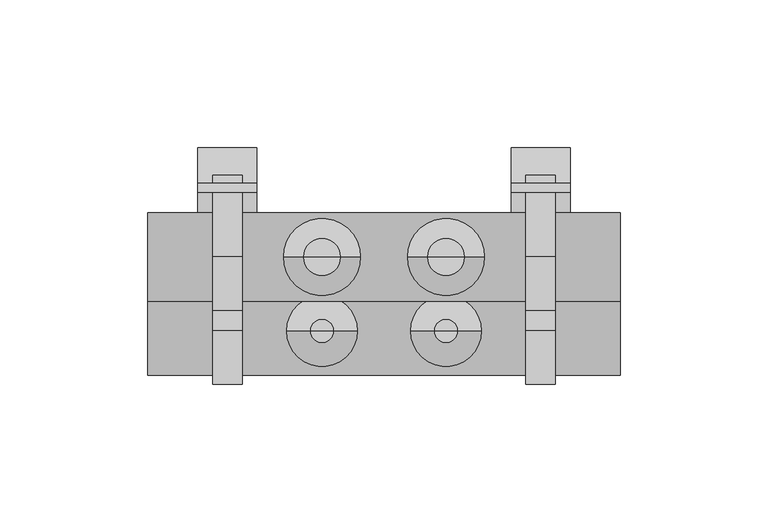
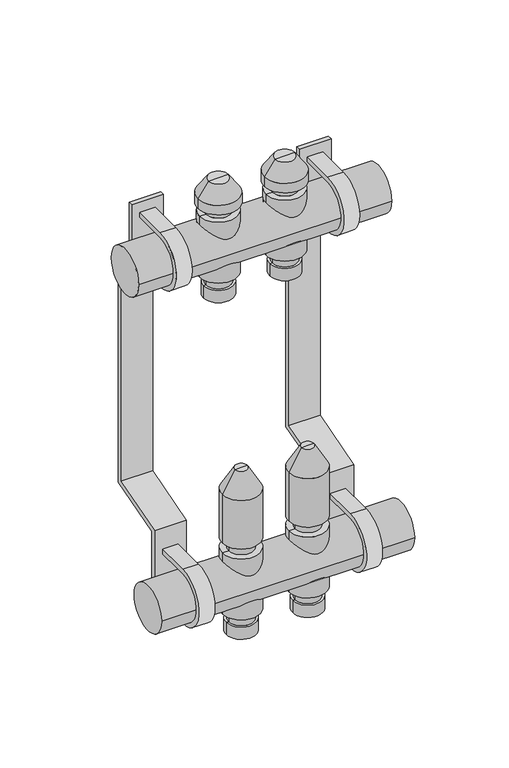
"""IFC4 building model written with IfcOpenShell, lengths in millimetres: valve geometry, PL AT_Manifold_FT-EV : 02 circuits."""

from ifc_helpers import new_model, si_unit, point, frame, frame_2d, origin, origin_2d, place, context, project, spatial, polyline, circle_curve, trimmed, segment, composite_curve, outline, extrude, source, transform, mapped, element, save
from ifc_brep_helpers import plane_surface, cylinder_surface, revolved_surface, advanced_brep


def valve_7f0c1a37(model_context):
    return source(origin(), model_context, "Body", "SolidModel", [
        advanced_brep(
        [(74.5, 0.0, -35.11267), (93.5, 0.0, -35.11267), (84.0, 0.0, -35.11267), (74.5, 0.0, -27.0369646), (93.5, 0.0, -27.0369646), (76.0, 0.0, -27.0369646), (92.0, 0.0, -27.0369646), (76.0, 0.0, -20.330253), (92.0, 0.0, -20.330253), (72.0, 0.0, -20.330253), (96.0, 0.0, -20.330253), (72.0, 0.0, 20.330253), (96.0, 0.0, 20.330253), (76.0, 0.0, 20.330253), (92.0, 0.0, 20.330253), (76.0, 0.0, 27.0474786), (92.0, 0.0, 27.0474786), (72.0, 0.0, 27.0474786), (96.0, 0.0, 27.0474786), (72.0, 0.0, 59.4084325), (96.0, 0.0, 59.4084325), (80.0, 0.0, 73.264839), (88.0, 0.0, 73.264839), (84.0, 0.0, 73.264839)],
        [
            (0, 1, circle_curve(frame((84.0, 0.0, -35.11267), z_axis=(0.0, 0.0, -1.0), x_axis=(1.0, 0.0, 0.0)), 9.5)),
            (1, 2),
            (2, 0),
            (1, 0, circle_curve(frame((84.0, 0.0, -35.11267), z_axis=(0.0, 0.0, -1.0), x_axis=(1.0, 0.0, 0.0)), 9.5)),
            (3, 4, circle_curve(frame((84.0, 0.0, -27.0369646), z_axis=(0.0, 0.0, -1.0), x_axis=(1.0, 0.0, 0.0)), 9.5)),
            (4, 1),
            (0, 3),
            (4, 3, circle_curve(frame((84.0, 0.0, -27.0369646), z_axis=(0.0, 0.0, -1.0), x_axis=(1.0, 0.0, 0.0)), 9.5)),
            (5, 6, circle_curve(frame((84.0, 0.0, -27.0369646), z_axis=(0.0, 0.0, -1.0), x_axis=(1.0, 0.0, 0.0)), 8.0)),
            (6, 4),
            (3, 5),
            (6, 5, circle_curve(frame((84.0, 0.0, -27.0369646), z_axis=(0.0, 0.0, -1.0), x_axis=(1.0, 0.0, 0.0)), 8.0)),
            (7, 8, circle_curve(frame((84.0, 0.0, -20.330253), z_axis=(0.0, 0.0, -1.0), x_axis=(1.0, 0.0, 0.0)), 8.0)),
            (8, 6),
            (5, 7),
            (8, 7, circle_curve(frame((84.0, 0.0, -20.330253), z_axis=(0.0, 0.0, -1.0), x_axis=(1.0, 0.0, 0.0)), 8.0)),
            (9, 10, circle_curve(frame((84.0, 0.0, -20.330253), z_axis=(0.0, 0.0, -1.0), x_axis=(1.0, 0.0, 0.0)), 12.0)),
            (10, 8),
            (7, 9),
            (10, 9, circle_curve(frame((84.0, 0.0, -20.330253), z_axis=(0.0, 0.0, -1.0), x_axis=(1.0, 0.0, 0.0)), 12.0)),
            (11, 12, circle_curve(frame((84.0, 0.0, 20.330253), z_axis=(0.0, 0.0, -1.0), x_axis=(1.0, 0.0, 0.0)), 12.0)),
            (12, 10),
            (9, 11),
            (12, 11, circle_curve(frame((84.0, 0.0, 20.330253), z_axis=(0.0, 0.0, -1.0), x_axis=(1.0, 0.0, 0.0)), 12.0)),
            (13, 14, circle_curve(frame((84.0, 0.0, 20.330253), z_axis=(0.0, 0.0, -1.0), x_axis=(1.0, 0.0, 0.0)), 8.0)),
            (14, 12),
            (11, 13),
            (14, 13, circle_curve(frame((84.0, 0.0, 20.330253), z_axis=(0.0, 0.0, -1.0), x_axis=(1.0, 0.0, 0.0)), 8.0)),
            (15, 16, circle_curve(frame((84.0, 0.0, 27.0474786), z_axis=(0.0, 0.0, -1.0), x_axis=(1.0, 0.0, 0.0)), 8.0)),
            (16, 14),
            (13, 15),
            (16, 15, circle_curve(frame((84.0, 0.0, 27.0474786), z_axis=(0.0, 0.0, -1.0), x_axis=(1.0, 0.0, 0.0)), 8.0)),
            (17, 18, circle_curve(frame((84.0, 0.0, 27.0474786), z_axis=(0.0, 0.0, -1.0), x_axis=(1.0, 0.0, 0.0)), 12.0)),
            (18, 16),
            (15, 17),
            (18, 17, circle_curve(frame((84.0, 0.0, 27.0474786), z_axis=(0.0, 0.0, -1.0), x_axis=(1.0, 0.0, 0.0)), 12.0)),
            (19, 20, circle_curve(frame((84.0, 0.0, 59.4084325), z_axis=(0.0, 0.0, -1.0), x_axis=(1.0, 0.0, 0.0)), 12.0)),
            (20, 18),
            (17, 19),
            (20, 19, circle_curve(frame((84.0, 0.0, 59.4084325), z_axis=(0.0, 0.0, -1.0), x_axis=(1.0, 0.0, 0.0)), 12.0)),
            (21, 22, circle_curve(frame((84.0, 0.0, 73.264839), z_axis=(0.0, 0.0, -1.0), x_axis=(1.0, 0.0, 0.0)), 4.0)),
            (22, 20),
            (19, 21),
            (22, 21, circle_curve(frame((84.0, 0.0, 73.264839), z_axis=(0.0, 0.0, -1.0), x_axis=(1.0, 0.0, 0.0)), 4.0)),
            (23, 22),
            (21, 23),
        ],
        [
            plane_surface(frame((84.0, 0.0, -35.11267), z_axis=(0.0, 0.0, -1.0), x_axis=(1.0, 0.0, 0.0))),
            cylinder_surface(frame((84.0, 0.0, 58.264839), z_axis=(0.0, 0.0, 1.0), x_axis=(1.0, 0.0, 0.0)), 9.5),
            plane_surface(frame((84.0, 0.0, -27.0369646), z_axis=(0.0, 0.0, 1.0), x_axis=(1.0, 0.0, 0.0))),
            cylinder_surface(frame((84.0, 0.0, 58.264839), z_axis=(0.0, 0.0, 1.0), x_axis=(1.0, 0.0, 0.0)), 8.0),
            plane_surface(frame((84.0, 0.0, -20.330253), z_axis=(0.0, 0.0, -1.0), x_axis=(1.0, 0.0, 0.0))),
            cylinder_surface(frame((84.0, 0.0, 58.264839), z_axis=(0.0, 0.0, 1.0), x_axis=(1.0, 0.0, 0.0)), 12.0),
            plane_surface(frame((84.0, 0.0, 20.330253), z_axis=(0.0, 0.0, 1.0), x_axis=(1.0, 0.0, 0.0))),
            plane_surface(frame((84.0, 0.0, 27.0474786), z_axis=(0.0, 0.0, -1.0), x_axis=(1.0, 0.0, 0.0))),
            revolved_surface(polyline([(96.0, 0.0, 59.4084325), (88.0, 0.0, 73.264839)]), (84.0, 0.0, 58.264839), (0.0, 0.0, 1.0)),
            plane_surface(frame((84.0, 0.0, 73.264839), z_axis=(0.0, 0.0, 1.0), x_axis=(1.0, 0.0, 0.0))),
        ],
        [
            (0, [[1, 2, 3]]),
            (0, [[4, -3, -2]]),
            (1, [[5, 6, -1, 7]]),
            (1, [[8, -7, -4, -6]]),
            (2, [[9, 10, -5, 11]]),
            (2, [[12, -11, -8, -10]]),
            (3, [[13, 14, -9, 15]]),
            (3, [[16, -15, -12, -14]]),
            (4, [[17, 18, -13, 19]]),
            (4, [[20, -19, -16, -18]]),
            (5, [[21, 22, -17, 23]]),
            (5, [[24, -23, -20, -22]]),
            (6, [[25, 26, -21, 27]]),
            (6, [[28, -27, -24, -26]]),
            (3, [[29, 30, -25, 31]]),
            (3, [[32, -31, -28, -30]]),
            (7, [[33, 34, -29, 35]]),
            (7, [[36, -35, -32, -34]]),
            (5, [[37, 38, -33, 39]]),
            (5, [[40, -39, -36, -38]]),
            (8, [[41, 42, -37, 43]]),
            (8, [[44, -43, -40, -42]]),
            (9, [[45, -41, 46]]),
            (9, [[-46, -44, -45]]),
        ],
    ),
        advanced_brep(
        [(74.5, 25.0, 174.88733), (93.5, 25.0, 174.88733), (84.0, 25.0, 174.88733), (74.5, 25.0, 182.9630354), (93.5, 25.0, 182.9630354), (76.0, 25.0, 182.9630354), (92.0, 25.0, 182.9630354), (76.0, 25.0, 189.669747), (92.0, 25.0, 189.669747), (72.0, 25.0, 189.669747), (96.0, 25.0, 189.669747), (72.0, 25.0, 230.330253), (96.0, 25.0, 230.330253), (76.0, 25.0, 230.330253), (92.0, 25.0, 230.330253), (76.0, 25.0, 236.0474786), (92.0, 25.0, 236.0474786), (71.0, 25.0, 236.0474786), (97.0, 25.0, 236.0474786), (71.0, 25.0, 242.337955), (97.0, 25.0, 242.337955), (77.6551779, 25.0, 251.842534), (90.3448221, 25.0, 251.842534), (84.0, 25.0, 251.842534)],
        [
            (0, 1, circle_curve(frame((84.0, 25.0, 174.88733), z_axis=(0.0, 0.0, -1.0), x_axis=(1.0, 0.0, 0.0)), 9.5)),
            (1, 2),
            (2, 0),
            (1, 0, circle_curve(frame((84.0, 25.0, 174.88733), z_axis=(0.0, 0.0, -1.0), x_axis=(1.0, 0.0, 0.0)), 9.5)),
            (3, 4, circle_curve(frame((84.0, 25.0, 182.9630354), z_axis=(0.0, 0.0, -1.0), x_axis=(1.0, 0.0, 0.0)), 9.5)),
            (4, 1),
            (0, 3),
            (4, 3, circle_curve(frame((84.0, 25.0, 182.9630354), z_axis=(0.0, 0.0, -1.0), x_axis=(1.0, 0.0, 0.0)), 9.5)),
            (5, 6, circle_curve(frame((84.0, 25.0, 182.9630354), z_axis=(0.0, 0.0, -1.0), x_axis=(1.0, 0.0, 0.0)), 8.0)),
            (6, 4),
            (3, 5),
            (6, 5, circle_curve(frame((84.0, 25.0, 182.9630354), z_axis=(0.0, 0.0, -1.0), x_axis=(1.0, 0.0, 0.0)), 8.0)),
            (7, 8, circle_curve(frame((84.0, 25.0, 189.669747), z_axis=(0.0, 0.0, -1.0), x_axis=(1.0, 0.0, 0.0)), 8.0)),
            (8, 6),
            (5, 7),
            (8, 7, circle_curve(frame((84.0, 25.0, 189.669747), z_axis=(0.0, 0.0, -1.0), x_axis=(1.0, 0.0, 0.0)), 8.0)),
            (9, 10, circle_curve(frame((84.0, 25.0, 189.669747), z_axis=(0.0, 0.0, -1.0), x_axis=(1.0, 0.0, 0.0)), 12.0)),
            (10, 8),
            (7, 9),
            (10, 9, circle_curve(frame((84.0, 25.0, 189.669747), z_axis=(0.0, 0.0, -1.0), x_axis=(1.0, 0.0, 0.0)), 12.0)),
            (11, 12, circle_curve(frame((84.0, 25.0, 230.330253), z_axis=(0.0, 0.0, -1.0), x_axis=(1.0, 0.0, 0.0)), 12.0)),
            (12, 10),
            (9, 11),
            (12, 11, circle_curve(frame((84.0, 25.0, 230.330253), z_axis=(0.0, 0.0, -1.0), x_axis=(1.0, 0.0, 0.0)), 12.0)),
            (13, 14, circle_curve(frame((84.0, 25.0, 230.330253), z_axis=(0.0, 0.0, -1.0), x_axis=(1.0, 0.0, 0.0)), 8.0)),
            (14, 12),
            (11, 13),
            (14, 13, circle_curve(frame((84.0, 25.0, 230.330253), z_axis=(0.0, 0.0, -1.0), x_axis=(1.0, 0.0, 0.0)), 8.0)),
            (15, 16, circle_curve(frame((84.0, 25.0, 236.0474786), z_axis=(0.0, 0.0, -1.0), x_axis=(1.0, 0.0, 0.0)), 8.0)),
            (16, 14),
            (13, 15),
            (16, 15, circle_curve(frame((84.0, 25.0, 236.0474786), z_axis=(0.0, 0.0, -1.0), x_axis=(1.0, 0.0, 0.0)), 8.0)),
            (17, 18, circle_curve(frame((84.0, 25.0, 236.0474786), z_axis=(0.0, 0.0, -1.0), x_axis=(1.0, 0.0, 0.0)), 13.0)),
            (18, 16),
            (15, 17),
            (18, 17, circle_curve(frame((84.0, 25.0, 236.0474786), z_axis=(0.0, 0.0, -1.0), x_axis=(1.0, 0.0, 0.0)), 13.0)),
            (19, 20, circle_curve(frame((84.0, 25.0, 242.337955), z_axis=(0.0, 0.0, -1.0), x_axis=(1.0, 0.0, 0.0)), 13.0)),
            (20, 18),
            (17, 19),
            (20, 19, circle_curve(frame((84.0, 25.0, 242.337955), z_axis=(0.0, 0.0, -1.0), x_axis=(1.0, 0.0, 0.0)), 13.0)),
            (21, 22, circle_curve(frame((84.0, 25.0, 251.842534), z_axis=(0.0, 0.0, -1.0), x_axis=(1.0, 0.0, 0.0)), 6.3448221)),
            (22, 20),
            (19, 21),
            (22, 21, circle_curve(frame((84.0, 25.0, 251.842534), z_axis=(0.0, 0.0, -1.0), x_axis=(1.0, 0.0, 0.0)), 6.3448221)),
            (23, 22),
            (21, 23),
        ],
        [
            plane_surface(frame((84.0, 25.0, 174.88733), z_axis=(0.0, 0.0, -1.0), x_axis=(1.0, 0.0, 0.0))),
            cylinder_surface(frame((84.0, 25.0, 247.7026565), z_axis=(0.0, 0.0, 1.0), x_axis=(1.0, 0.0, 0.0)), 9.5),
            plane_surface(frame((84.0, 25.0, 182.9630354), z_axis=(0.0, 0.0, 1.0), x_axis=(1.0, 0.0, 0.0))),
            cylinder_surface(frame((84.0, 25.0, 247.7026565), z_axis=(0.0, 0.0, 1.0), x_axis=(1.0, 0.0, 0.0)), 8.0),
            plane_surface(frame((84.0, 25.0, 189.669747), z_axis=(0.0, 0.0, -1.0), x_axis=(1.0, 0.0, 0.0))),
            cylinder_surface(frame((84.0, 25.0, 247.7026565), z_axis=(0.0, 0.0, 1.0), x_axis=(1.0, 0.0, 0.0)), 12.0),
            plane_surface(frame((84.0, 25.0, 230.330253), z_axis=(0.0, 0.0, 1.0), x_axis=(1.0, 0.0, 0.0))),
            plane_surface(frame((84.0, 25.0, 236.0474786), z_axis=(0.0, 0.0, -1.0), x_axis=(1.0, 0.0, 0.0))),
            cylinder_surface(frame((84.0, 25.0, 247.7026565), z_axis=(0.0, 0.0, 1.0), x_axis=(1.0, 0.0, 0.0)), 13.0),
            revolved_surface(polyline([(97.0, 25.0, 242.337955), (90.3448221, 25.0, 251.842534)]), (84.0, 25.0, 247.7026565), (0.0, 0.0, 1.0)),
            plane_surface(frame((84.0, 25.0, 251.842534), z_axis=(0.0, 0.0, 1.0), x_axis=(1.0, 0.0, 0.0))),
        ],
        [
            (0, [[1, 2, 3]]),
            (0, [[4, -3, -2]]),
            (1, [[5, 6, -1, 7]]),
            (1, [[8, -7, -4, -6]]),
            (2, [[9, 10, -5, 11]]),
            (2, [[12, -11, -8, -10]]),
            (3, [[13, 14, -9, 15]]),
            (3, [[16, -15, -12, -14]]),
            (4, [[17, 18, -13, 19]]),
            (4, [[20, -19, -16, -18]]),
            (5, [[21, 22, -17, 23]]),
            (5, [[24, -23, -20, -22]]),
            (6, [[25, 26, -21, 27]]),
            (6, [[28, -27, -24, -26]]),
            (3, [[29, 30, -25, 31]]),
            (3, [[32, -31, -28, -30]]),
            (7, [[33, 34, -29, 35]]),
            (7, [[36, -35, -32, -34]]),
            (8, [[37, 38, -33, 39]]),
            (8, [[40, -39, -36, -38]]),
            (9, [[41, 42, -37, 43]]),
            (9, [[44, -43, -40, -42]]),
            (10, [[45, -41, 46]]),
            (10, [[-46, -44, -45]]),
        ],
    ),
        advanced_brep(
        [(32.5, 25.0, 174.88733), (51.5, 25.0, 174.88733), (42.0, 25.0, 174.88733), (32.5, 25.0, 182.9630354), (51.5, 25.0, 182.9630354), (34.0, 25.0, 182.9630354), (50.0, 25.0, 182.9630354), (34.0, 25.0, 189.669747), (50.0, 25.0, 189.669747), (30.0, 25.0, 189.669747), (54.0, 25.0, 189.669747), (30.0, 25.0, 230.330253), (54.0, 25.0, 230.330253), (34.0, 25.0, 230.330253), (50.0, 25.0, 230.330253), (34.0, 25.0, 236.0474786), (50.0, 25.0, 236.0474786), (29.0, 25.0, 236.0474786), (55.0, 25.0, 236.0474786), (29.0, 25.0, 242.337955), (55.0, 25.0, 242.337955), (35.6551779, 25.0, 251.842534), (48.3448221, 25.0, 251.842534), (42.0, 25.0, 251.842534)],
        [
            (0, 1, circle_curve(frame((42.0, 25.0, 174.88733), z_axis=(0.0, 0.0, -1.0), x_axis=(1.0, 0.0, 0.0)), 9.5)),
            (1, 2),
            (2, 0),
            (1, 0, circle_curve(frame((42.0, 25.0, 174.88733), z_axis=(0.0, 0.0, -1.0), x_axis=(1.0, 0.0, 0.0)), 9.5)),
            (3, 4, circle_curve(frame((42.0, 25.0, 182.9630354), z_axis=(0.0, 0.0, -1.0), x_axis=(1.0, 0.0, 0.0)), 9.5)),
            (4, 1),
            (0, 3),
            (4, 3, circle_curve(frame((42.0, 25.0, 182.9630354), z_axis=(0.0, 0.0, -1.0), x_axis=(1.0, 0.0, 0.0)), 9.5)),
            (5, 6, circle_curve(frame((42.0, 25.0, 182.9630354), z_axis=(0.0, 0.0, -1.0), x_axis=(1.0, 0.0, 0.0)), 8.0)),
            (6, 4),
            (3, 5),
            (6, 5, circle_curve(frame((42.0, 25.0, 182.9630354), z_axis=(0.0, 0.0, -1.0), x_axis=(1.0, 0.0, 0.0)), 8.0)),
            (7, 8, circle_curve(frame((42.0, 25.0, 189.669747), z_axis=(0.0, 0.0, -1.0), x_axis=(1.0, 0.0, 0.0)), 8.0)),
            (8, 6),
            (5, 7),
            (8, 7, circle_curve(frame((42.0, 25.0, 189.669747), z_axis=(0.0, 0.0, -1.0), x_axis=(1.0, 0.0, 0.0)), 8.0)),
            (9, 10, circle_curve(frame((42.0, 25.0, 189.669747), z_axis=(0.0, 0.0, -1.0), x_axis=(1.0, 0.0, 0.0)), 12.0)),
            (10, 8),
            (7, 9),
            (10, 9, circle_curve(frame((42.0, 25.0, 189.669747), z_axis=(0.0, 0.0, -1.0), x_axis=(1.0, 0.0, 0.0)), 12.0)),
            (11, 12, circle_curve(frame((42.0, 25.0, 230.330253), z_axis=(0.0, 0.0, -1.0), x_axis=(1.0, 0.0, 0.0)), 12.0)),
            (12, 10),
            (9, 11),
            (12, 11, circle_curve(frame((42.0, 25.0, 230.330253), z_axis=(0.0, 0.0, -1.0), x_axis=(1.0, 0.0, 0.0)), 12.0)),
            (13, 14, circle_curve(frame((42.0, 25.0, 230.330253), z_axis=(0.0, 0.0, -1.0), x_axis=(1.0, 0.0, 0.0)), 8.0)),
            (14, 12),
            (11, 13),
            (14, 13, circle_curve(frame((42.0, 25.0, 230.330253), z_axis=(0.0, 0.0, -1.0), x_axis=(1.0, 0.0, 0.0)), 8.0)),
            (15, 16, circle_curve(frame((42.0, 25.0, 236.0474786), z_axis=(0.0, 0.0, -1.0), x_axis=(1.0, 0.0, 0.0)), 8.0)),
            (16, 14),
            (13, 15),
            (16, 15, circle_curve(frame((42.0, 25.0, 236.0474786), z_axis=(0.0, 0.0, -1.0), x_axis=(1.0, 0.0, 0.0)), 8.0)),
            (17, 18, circle_curve(frame((42.0, 25.0, 236.0474786), z_axis=(0.0, 0.0, -1.0), x_axis=(1.0, 0.0, 0.0)), 13.0)),
            (18, 16),
            (15, 17),
            (18, 17, circle_curve(frame((42.0, 25.0, 236.0474786), z_axis=(0.0, 0.0, -1.0), x_axis=(1.0, 0.0, 0.0)), 13.0)),
            (19, 20, circle_curve(frame((42.0, 25.0, 242.337955), z_axis=(0.0, 0.0, -1.0), x_axis=(1.0, 0.0, 0.0)), 13.0)),
            (20, 18),
            (17, 19),
            (20, 19, circle_curve(frame((42.0, 25.0, 242.337955), z_axis=(0.0, 0.0, -1.0), x_axis=(1.0, 0.0, 0.0)), 13.0)),
            (21, 22, circle_curve(frame((42.0, 25.0, 251.842534), z_axis=(0.0, 0.0, -1.0), x_axis=(1.0, 0.0, 0.0)), 6.3448221)),
            (22, 20),
            (19, 21),
            (22, 21, circle_curve(frame((42.0, 25.0, 251.842534), z_axis=(0.0, 0.0, -1.0), x_axis=(1.0, 0.0, 0.0)), 6.3448221)),
            (23, 22),
            (21, 23),
        ],
        [
            plane_surface(frame((42.0, 25.0, 174.88733), z_axis=(0.0, 0.0, -1.0), x_axis=(1.0, 0.0, 0.0))),
            cylinder_surface(frame((42.0, 25.0, 247.7026565), z_axis=(0.0, 0.0, 1.0), x_axis=(1.0, 0.0, 0.0)), 9.5),
            plane_surface(frame((42.0, 25.0, 182.9630354), z_axis=(0.0, 0.0, 1.0), x_axis=(1.0, 0.0, 0.0))),
            cylinder_surface(frame((42.0, 25.0, 247.7026565), z_axis=(0.0, 0.0, 1.0), x_axis=(1.0, 0.0, 0.0)), 8.0),
            plane_surface(frame((42.0, 25.0, 189.669747), z_axis=(0.0, 0.0, -1.0), x_axis=(1.0, 0.0, 0.0))),
            cylinder_surface(frame((42.0, 25.0, 247.7026565), z_axis=(0.0, 0.0, 1.0), x_axis=(1.0, 0.0, 0.0)), 12.0),
            plane_surface(frame((42.0, 25.0, 230.330253), z_axis=(0.0, 0.0, 1.0), x_axis=(1.0, 0.0, 0.0))),
            plane_surface(frame((42.0, 25.0, 236.0474786), z_axis=(0.0, 0.0, -1.0), x_axis=(1.0, 0.0, 0.0))),
            cylinder_surface(frame((42.0, 25.0, 247.7026565), z_axis=(0.0, 0.0, 1.0), x_axis=(1.0, 0.0, 0.0)), 13.0),
            revolved_surface(polyline([(55.0, 25.0, 242.337955), (48.3448221, 25.0, 251.842534)]), (42.0, 25.0, 247.7026565), (0.0, 0.0, 1.0)),
            plane_surface(frame((42.0, 25.0, 251.842534), z_axis=(0.0, 0.0, 1.0), x_axis=(1.0, 0.0, 0.0))),
        ],
        [
            (0, [[1, 2, 3]]),
            (0, [[4, -3, -2]]),
            (1, [[5, 6, -1, 7]]),
            (1, [[8, -7, -4, -6]]),
            (2, [[9, 10, -5, 11]]),
            (2, [[12, -11, -8, -10]]),
            (3, [[13, 14, -9, 15]]),
            (3, [[16, -15, -12, -14]]),
            (4, [[17, 18, -13, 19]]),
            (4, [[20, -19, -16, -18]]),
            (5, [[21, 22, -17, 23]]),
            (5, [[24, -23, -20, -22]]),
            (6, [[25, 26, -21, 27]]),
            (6, [[28, -27, -24, -26]]),
            (3, [[29, 30, -25, 31]]),
            (3, [[32, -31, -28, -30]]),
            (7, [[33, 34, -29, 35]]),
            (7, [[36, -35, -32, -34]]),
            (8, [[37, 38, -33, 39]]),
            (8, [[40, -39, -36, -38]]),
            (9, [[41, 42, -37, 43]]),
            (9, [[44, -43, -40, -42]]),
            (10, [[45, -41, 46]]),
            (10, [[-46, -44, -45]]),
        ],
    ),
        advanced_brep(
        [(32.5, 0.0, -35.11267), (51.5, 0.0, -35.11267), (42.0, 0.0, -35.11267), (32.5, 0.0, -27.0369646), (51.5, 0.0, -27.0369646), (34.0, 0.0, -27.0369646), (50.0, 0.0, -27.0369646), (34.0, 0.0, -20.330253), (50.0, 0.0, -20.330253), (30.0, 0.0, -20.330253), (54.0, 0.0, -20.330253), (30.0, 0.0, 20.330253), (54.0, 0.0, 20.330253), (34.0, 0.0, 20.330253), (50.0, 0.0, 20.330253), (34.0, 0.0, 27.0474786), (50.0, 0.0, 27.0474786), (30.0, 0.0, 27.0474786), (54.0, 0.0, 27.0474786), (30.0, 0.0, 59.4084325), (54.0, 0.0, 59.4084325), (38.0, 0.0, 73.264839), (46.0, 0.0, 73.264839), (42.0, 0.0, 73.264839)],
        [
            (0, 1, circle_curve(frame((42.0, 0.0, -35.11267), z_axis=(0.0, 0.0, -1.0), x_axis=(1.0, 0.0, 0.0)), 9.5)),
            (1, 2),
            (2, 0),
            (1, 0, circle_curve(frame((42.0, 0.0, -35.11267), z_axis=(0.0, 0.0, -1.0), x_axis=(1.0, 0.0, 0.0)), 9.5)),
            (3, 4, circle_curve(frame((42.0, 0.0, -27.0369646), z_axis=(0.0, 0.0, -1.0), x_axis=(1.0, 0.0, 0.0)), 9.5)),
            (4, 1),
            (0, 3),
            (4, 3, circle_curve(frame((42.0, 0.0, -27.0369646), z_axis=(0.0, 0.0, -1.0), x_axis=(1.0, 0.0, 0.0)), 9.5)),
            (5, 6, circle_curve(frame((42.0, 0.0, -27.0369646), z_axis=(0.0, 0.0, -1.0), x_axis=(1.0, 0.0, 0.0)), 8.0)),
            (6, 4),
            (3, 5),
            (6, 5, circle_curve(frame((42.0, 0.0, -27.0369646), z_axis=(0.0, 0.0, -1.0), x_axis=(1.0, 0.0, 0.0)), 8.0)),
            (7, 8, circle_curve(frame((42.0, 0.0, -20.330253), z_axis=(0.0, 0.0, -1.0), x_axis=(1.0, 0.0, 0.0)), 8.0)),
            (8, 6),
            (5, 7),
            (8, 7, circle_curve(frame((42.0, 0.0, -20.330253), z_axis=(0.0, 0.0, -1.0), x_axis=(1.0, 0.0, 0.0)), 8.0)),
            (9, 10, circle_curve(frame((42.0, 0.0, -20.330253), z_axis=(0.0, 0.0, -1.0), x_axis=(1.0, 0.0, 0.0)), 12.0)),
            (10, 8),
            (7, 9),
            (10, 9, circle_curve(frame((42.0, 0.0, -20.330253), z_axis=(0.0, 0.0, -1.0), x_axis=(1.0, 0.0, 0.0)), 12.0)),
            (11, 12, circle_curve(frame((42.0, 0.0, 20.330253), z_axis=(0.0, 0.0, -1.0), x_axis=(1.0, 0.0, 0.0)), 12.0)),
            (12, 10),
            (9, 11),
            (12, 11, circle_curve(frame((42.0, 0.0, 20.330253), z_axis=(0.0, 0.0, -1.0), x_axis=(1.0, 0.0, 0.0)), 12.0)),
            (13, 14, circle_curve(frame((42.0, 0.0, 20.330253), z_axis=(0.0, 0.0, -1.0), x_axis=(1.0, 0.0, 0.0)), 8.0)),
            (14, 12),
            (11, 13),
            (14, 13, circle_curve(frame((42.0, 0.0, 20.330253), z_axis=(0.0, 0.0, -1.0), x_axis=(1.0, 0.0, 0.0)), 8.0)),
            (15, 16, circle_curve(frame((42.0, 0.0, 27.0474786), z_axis=(0.0, 0.0, -1.0), x_axis=(1.0, 0.0, 0.0)), 8.0)),
            (16, 14),
            (13, 15),
            (16, 15, circle_curve(frame((42.0, 0.0, 27.0474786), z_axis=(0.0, 0.0, -1.0), x_axis=(1.0, 0.0, 0.0)), 8.0)),
            (17, 18, circle_curve(frame((42.0, 0.0, 27.0474786), z_axis=(0.0, 0.0, -1.0), x_axis=(1.0, 0.0, 0.0)), 12.0)),
            (18, 16),
            (15, 17),
            (18, 17, circle_curve(frame((42.0, 0.0, 27.0474786), z_axis=(0.0, 0.0, -1.0), x_axis=(1.0, 0.0, 0.0)), 12.0)),
            (19, 20, circle_curve(frame((42.0, 0.0, 59.4084325), z_axis=(0.0, 0.0, -1.0), x_axis=(1.0, 0.0, 0.0)), 12.0)),
            (20, 18),
            (17, 19),
            (20, 19, circle_curve(frame((42.0, 0.0, 59.4084325), z_axis=(0.0, 0.0, -1.0), x_axis=(1.0, 0.0, 0.0)), 12.0)),
            (21, 22, circle_curve(frame((42.0, 0.0, 73.264839), z_axis=(0.0, 0.0, -1.0), x_axis=(1.0, 0.0, 0.0)), 4.0)),
            (22, 20),
            (19, 21),
            (22, 21, circle_curve(frame((42.0, 0.0, 73.264839), z_axis=(0.0, 0.0, -1.0), x_axis=(1.0, 0.0, 0.0)), 4.0)),
            (23, 22),
            (21, 23),
        ],
        [
            plane_surface(frame((42.0, 0.0, -35.11267), z_axis=(0.0, 0.0, -1.0), x_axis=(1.0, 0.0, 0.0))),
            cylinder_surface(frame((42.0, 0.0, 58.264839), z_axis=(0.0, 0.0, 1.0), x_axis=(1.0, 0.0, 0.0)), 9.5),
            plane_surface(frame((42.0, 0.0, -27.0369646), z_axis=(0.0, 0.0, 1.0), x_axis=(1.0, 0.0, 0.0))),
            cylinder_surface(frame((42.0, 0.0, 58.264839), z_axis=(0.0, 0.0, 1.0), x_axis=(1.0, 0.0, 0.0)), 8.0),
            plane_surface(frame((42.0, 0.0, -20.330253), z_axis=(0.0, 0.0, -1.0), x_axis=(1.0, 0.0, 0.0))),
            cylinder_surface(frame((42.0, 0.0, 58.264839), z_axis=(0.0, 0.0, 1.0), x_axis=(1.0, 0.0, 0.0)), 12.0),
            plane_surface(frame((42.0, 0.0, 20.330253), z_axis=(0.0, 0.0, 1.0), x_axis=(1.0, 0.0, 0.0))),
            plane_surface(frame((42.0, 0.0, 27.0474786), z_axis=(0.0, 0.0, -1.0), x_axis=(1.0, 0.0, 0.0))),
            revolved_surface(polyline([(54.0, 0.0, 59.4084325), (46.0, 0.0, 73.264839)]), (42.0, 0.0, 58.264839), (0.0, 0.0, 1.0)),
            plane_surface(frame((42.0, 0.0, 73.264839), z_axis=(0.0, 0.0, 1.0), x_axis=(1.0, 0.0, 0.0))),
        ],
        [
            (0, [[1, 2, 3]]),
            (0, [[4, -3, -2]]),
            (1, [[5, 6, -1, 7]]),
            (1, [[8, -7, -4, -6]]),
            (2, [[9, 10, -5, 11]]),
            (2, [[12, -11, -8, -10]]),
            (3, [[13, 14, -9, 15]]),
            (3, [[16, -15, -12, -14]]),
            (4, [[17, 18, -13, 19]]),
            (4, [[20, -19, -16, -18]]),
            (5, [[21, 22, -17, 23]]),
            (5, [[24, -23, -20, -22]]),
            (6, [[25, 26, -21, 27]]),
            (6, [[28, -27, -24, -26]]),
            (3, [[29, 30, -25, 31]]),
            (3, [[32, -31, -28, -30]]),
            (7, [[33, 34, -29, 35]]),
            (7, [[36, -35, -32, -34]]),
            (5, [[37, 38, -33, 39]]),
            (5, [[40, -39, -36, -38]]),
            (8, [[41, 42, -37, 43]]),
            (8, [[44, -43, -40, -42]]),
            (9, [[45, -41, 46]]),
            (9, [[-46, -44, -45]]),
        ],
    ),
        extrude(outline(composite_curve([segment(trimmed(circle_curve(origin_2d(), 15.0), [point((0.0, 15.0))], [point((0.0, -15.0))], True, "CARTESIAN"), True, "CONTINUOUS"), segment(polyline([(0.0, -15.0), (27.6751284, -15.0), (27.6751284, -18.0), (0.0, -18.0)]), True, "CONTINUOUS"), segment(trimmed(circle_curve(origin_2d(), 18.0), [point((0.0, -18.0))], [point((0.0, 18.0))], False, "CARTESIAN"), True, "CONTINUOUS"), segment(polyline([(0.0, 18.0), (27.6751284, 18.0), (27.6751284, 15.0), (0.0, 15.0)]), True, "CONTINUOUS")], self_intersect=False)), frame((111.0, 0.0, 0.0), z_axis=(1.0, 0.0, 0.0), x_axis=(0.0, 1.0, 0.0)), (0.0, 0.0, 1.0), 10.0),
        extrude(outline(composite_curve([segment(trimmed(circle_curve(frame_2d((25.0, 210.0)), 15.0), [point((25.0, 225.0))], [point((25.0, 195.0))], True, "CARTESIAN"), True, "CONTINUOUS"), segment(polyline([(25.0, 195.0), (52.6751284, 195.0), (52.6751284, 192.0), (25.0, 192.0)]), True, "CONTINUOUS"), segment(trimmed(circle_curve(frame_2d((25.0, 210.0)), 18.0), [point((25.0, 192.0))], [point((25.0, 228.0))], False, "CARTESIAN"), True, "CONTINUOUS"), segment(polyline([(25.0, 228.0), (52.6751284, 228.0), (52.6751284, 225.0), (25.0, 225.0)]), True, "CONTINUOUS")], self_intersect=False)), frame((111.0, 0.0, 0.0), z_axis=(1.0, 0.0, 0.0), x_axis=(0.0, 1.0, 0.0)), (0.0, 0.0, 1.0), 10.0),
        extrude(outline(polyline([(62.0, 182.8840762), (62.0, 40.6095793), (25.0, 30.0), (25.0, -30.0), (22.0, -30.0), (22.0, 32.2606622), (59.0, 42.8702414), (59.0, 180.3667773), (47.0, 182.4827011), (47.0, 235.0), (50.0, 235.0), (50.0, 185.0), (62.0, 182.8840762)])), frame((106.0, 0.0, 0.0), z_axis=(1.0, 0.0, 0.0), x_axis=(0.0, 1.0, 0.0)), (0.0, 0.0, 1.0), 20.0),
        extrude(outline(composite_curve([segment(trimmed(circle_curve(origin_2d(), 15.0), [point((0.0, 15.0))], [point((0.0, -15.0))], True, "CARTESIAN"), True, "CONTINUOUS"), segment(polyline([(0.0, -15.0), (27.6751284, -15.0), (27.6751284, -18.0), (0.0, -18.0)]), True, "CONTINUOUS"), segment(trimmed(circle_curve(origin_2d(), 18.0), [point((0.0, -18.0))], [point((0.0, 18.0))], False, "CARTESIAN"), True, "CONTINUOUS"), segment(polyline([(0.0, 18.0), (27.6751284, 18.0), (27.6751284, 15.0), (0.0, 15.0)]), True, "CONTINUOUS")], self_intersect=False)), frame((5.0, 0.0, 0.0), z_axis=(1.0, 0.0, 0.0), x_axis=(0.0, 1.0, 0.0)), (0.0, 0.0, 1.0), 10.0),
        extrude(outline(composite_curve([segment(trimmed(circle_curve(frame_2d((25.0, 210.0)), 15.0), [point((25.0, 225.0))], [point((25.0, 195.0))], True, "CARTESIAN"), True, "CONTINUOUS"), segment(polyline([(25.0, 195.0), (52.6751284, 195.0), (52.6751284, 192.0), (25.0, 192.0)]), True, "CONTINUOUS"), segment(trimmed(circle_curve(frame_2d((25.0, 210.0)), 18.0), [point((25.0, 192.0))], [point((25.0, 228.0))], False, "CARTESIAN"), True, "CONTINUOUS"), segment(polyline([(25.0, 228.0), (52.6751284, 228.0), (52.6751284, 225.0), (25.0, 225.0)]), True, "CONTINUOUS")], self_intersect=False)), frame((5.0, 0.0, 0.0), z_axis=(1.0, 0.0, 0.0), x_axis=(0.0, 1.0, 0.0)), (0.0, 0.0, 1.0), 10.0),
        extrude(outline(polyline([(62.0, 182.8840762), (62.0, 40.6095793), (25.0, 30.0), (25.0, -30.0), (22.0, -30.0), (22.0, 32.2606622), (59.0, 42.8702414), (59.0, 180.3667773), (47.0, 182.4827011), (47.0, 235.0), (50.0, 235.0), (50.0, 185.0), (62.0, 182.8840762)])), frame((0.0, 0.0, 0.0), z_axis=(1.0, 0.0, 0.0), x_axis=(0.0, 1.0, 0.0)), (0.0, 0.0, 1.0), 20.0),
        extrude(outline(composite_curve([segment(trimmed(circle_curve(origin_2d(), 15.0), [point((15.0, 0.0))], [point((-15.0, 0.0))], False, "CARTESIAN"), True, "CONTINUOUS"), segment(trimmed(circle_curve(origin_2d(), 15.0), [point((-15.0, 0.0))], [point((15.0, 0.0))], False, "CARTESIAN"), True, "CONTINUOUS")], self_intersect=False)), frame((-17.0, 0.0, 0.0), z_axis=(1.0, 0.0, 0.0), x_axis=(0.0, 1.0, 0.0)), (0.0, 0.0, 1.0), 160.0),
        extrude(outline(composite_curve([segment(trimmed(circle_curve(frame_2d((25.0, 210.0)), 15.0), [point((40.0, 210.0))], [point((10.0, 210.0))], False, "CARTESIAN"), True, "CONTINUOUS"), segment(trimmed(circle_curve(frame_2d((25.0, 210.0)), 15.0), [point((10.0, 210.0))], [point((40.0, 210.0))], False, "CARTESIAN"), True, "CONTINUOUS")], self_intersect=False)), frame((-17.0, 0.0, 0.0), z_axis=(1.0, 0.0, 0.0), x_axis=(0.0, 1.0, 0.0)), (0.0, 0.0, 1.0), 160.0),
    ])


if __name__ == "__main__":
    model = new_model("IFC4")
    model_context = context("Model", 3, world=origin())
    ifc_project = project(units=[si_unit("LENGTHUNIT", "METRE", prefix="MILLI")], contexts=[model_context])
    site = spatial("IfcSite", under=ifc_project)
    building = spatial("IfcBuilding", under=site)
    placement = place(None, origin())
    valve_shape = valve_7f0c1a37(model_context)
    element("IfcValve", 1, ObjectType="PL AT_Manifold_FT-EV : 02 circuits", at=placement, inside=building, context=model_context, shape_type="MappedRepresentation", body=[
        mapped(valve_shape, transform((0.0, 0.0, 0.0), x_axis=(1.0, 0.0, 0.0), y_axis=(0.0, 1.0, 0.0), z_axis=(0.0, 0.0, 1.0))),
    ])
    save(model, "model.ifc")
